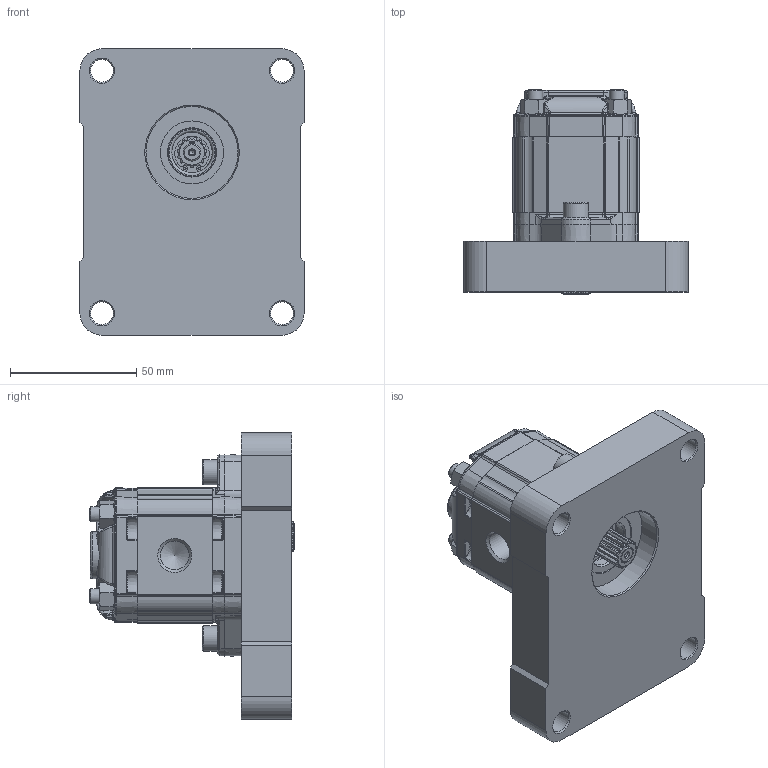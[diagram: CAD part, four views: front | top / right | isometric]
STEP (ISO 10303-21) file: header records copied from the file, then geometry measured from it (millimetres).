
FILE_DESCRIPTION(/* description */ ('Unknown'),/* implementation_level */ '2;1');
FILE_NAME(/* name */ 'X0F0242GBBA',/* time_stamp */ '2026-05-25T17:15:32+02:00',/* author */ ('Unknown'),/* organization */ ('Unknown'),/* preprocessor_version */ 'ST-DEVELOPER v16.7',/* originating_system */ 'Solid Edge',/* authorisation */ 'Unknown');
FILE_SCHEMA (('AUTOMOTIVE_DESIGN {1 0 10303 214 3 1 1}'));
Products named in the file (5): X0F0242GBBA; X0F42; 0G; X0BBH29,9; XF004-A
Assembly tree (4 placements, depth 2):
  X0F0242GBBA
    X0F42
    0G
    X0BBH29,9
    XF004-A
Bounding box: 89 x 81.2 x 113.7 mm (x, y, z)
Volume: 312204 mm3; surface area: 67868.7 mm2
Topology: 5 solids, 19 shells, 2682 faces, 6551 edges, 3900 vertices
Faces by surface type: cylinder 836, plane 683, bspline 547, cone 338, torus 200, sphere 78
Full cylindrical faces by diameter (mm): 1.053 x2, 2 x1, 5 x2, 6 x10, 6.01 x4, 6.5 x4, 6.518 x4, 6.545 x2, 7.5 x2, 7.92 x1, 8 x2, 9 x4, 9.318 x1, 10 x6, 10.445 x1, 11 x1, 11.445 x2, 13 x1, 14 x1, 16 x1, 16.2 x1, 16.8 x1, 19 x1, 22 x2, 25 x1, 25.303 x1, 25.5 x1, 36.5 x1
Entity records: 161632 total; most frequent: CARTESIAN_POINT 84764, ORIENTED_EDGE 12452, DIRECTION 11260, EDGE_CURVE 6226, AXIS2_PLACEMENT_3D 4597, VERTEX_POINT 3823, FACE_BOUND 3001, EDGE_LOOP 2996
